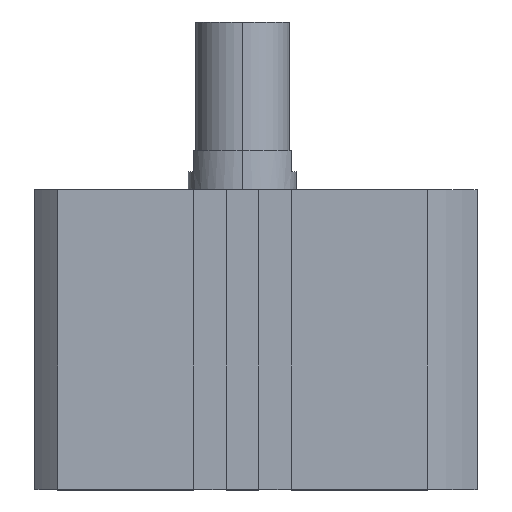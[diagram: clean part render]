
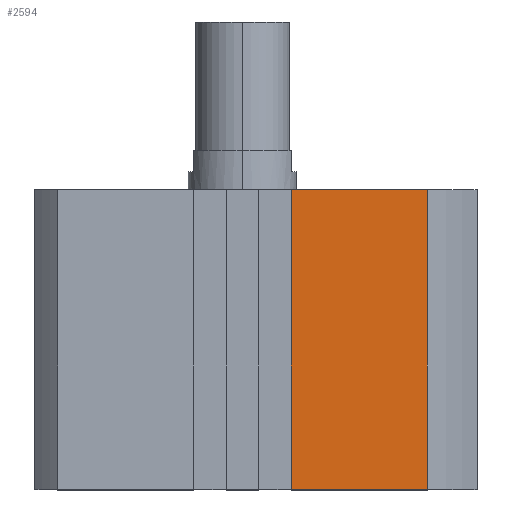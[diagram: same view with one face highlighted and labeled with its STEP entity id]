
A CAD part, top view. The second image highlights one B-rep face of the part: STEP entity #2594.
In plain terms, the highlighted planar face has unit normal (0, 0, 1).
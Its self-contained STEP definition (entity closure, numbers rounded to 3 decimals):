
#351 = CARTESIAN_POINT ( 'NONE',  ( 51.213, -83., 57.5 ) ) ;
#434 = VECTOR ( 'NONE', #572, 1000. ) ;
#515 = DIRECTION ( 'NONE',  ( 0., 0., 1. ) ) ;
#572 = DIRECTION ( 'NONE',  ( 0., 1., 0. ) ) ;
#692 = AXIS2_PLACEMENT_3D ( 'NONE', #1508, #515, #2296 ) ;
#904 = LINE ( 'NONE', #1294, #2597 ) ;
#927 = EDGE_CURVE ( 'NONE', #2188, #2327, #2391, .T. ) ;
#991 = EDGE_CURVE ( 'NONE', #2327, #1018, #904, .T. ) ;
#1018 = VERTEX_POINT ( 'NONE', #1268 ) ;
#1140 = LINE ( 'NONE', #2358, #3088 ) ;
#1268 = CARTESIAN_POINT ( 'NONE',  ( 51.213, 0., 57.5 ) ) ;
#1294 = CARTESIAN_POINT ( 'NONE',  ( 0., 0., 57.5 ) ) ;
#1309 = CARTESIAN_POINT ( 'NONE',  ( 51.213, -83., 57.5 ) ) ;
#1455 = VECTOR ( 'NONE', #2659, 1000. ) ;
#1508 = CARTESIAN_POINT ( 'NONE',  ( 0., -83., 57.5 ) ) ;
#1569 = DIRECTION ( 'NONE',  ( 1., 0., 0. ) ) ;
#1681 = ORIENTED_EDGE ( 'NONE', *, *, #991, .F. ) ;
#1780 = FACE_OUTER_BOUND ( 'NONE', #2954, .T. ) ;
#1796 = PLANE ( 'NONE',  #692 ) ;
#1846 = DIRECTION ( 'NONE',  ( 1., 0., 0. ) ) ;
#1957 = VERTEX_POINT ( 'NONE', #351 ) ;
#2188 = VERTEX_POINT ( 'NONE', #3022 ) ;
#2229 = LINE ( 'NONE', #1309, #434 ) ;
#2296 = DIRECTION ( 'NONE',  ( 1., 0., 0. ) ) ;
#2327 = VERTEX_POINT ( 'NONE', #3046 ) ;
#2358 = CARTESIAN_POINT ( 'NONE',  ( 0., -83., 57.5 ) ) ;
#2391 = LINE ( 'NONE', #2676, #1455 ) ;
#2449 = EDGE_CURVE ( 'NONE', #2188, #1957, #1140, .T. ) ;
#2594 = ADVANCED_FACE ( 'NONE', ( #1780 ), #1796, .T. ) ;
#2597 = VECTOR ( 'NONE', #1569, 1000. ) ;
#2659 = DIRECTION ( 'NONE',  ( 0., 1., 0. ) ) ;
#2676 = CARTESIAN_POINT ( 'NONE',  ( 13.5, -83., 57.5 ) ) ;
#2687 = ORIENTED_EDGE ( 'NONE', *, *, #2449, .T. ) ;
#2696 = EDGE_CURVE ( 'NONE', #1957, #1018, #2229, .T. ) ;
#2835 = ORIENTED_EDGE ( 'NONE', *, *, #927, .F. ) ;
#2869 = ORIENTED_EDGE ( 'NONE', *, *, #2696, .T. ) ;
#2954 = EDGE_LOOP ( 'NONE', ( #1681, #2835, #2687, #2869 ) ) ;
#3022 = CARTESIAN_POINT ( 'NONE',  ( 13.5, -83., 57.5 ) ) ;
#3046 = CARTESIAN_POINT ( 'NONE',  ( 13.5, 0., 57.5 ) ) ;
#3088 = VECTOR ( 'NONE', #1846, 1000. ) ;
